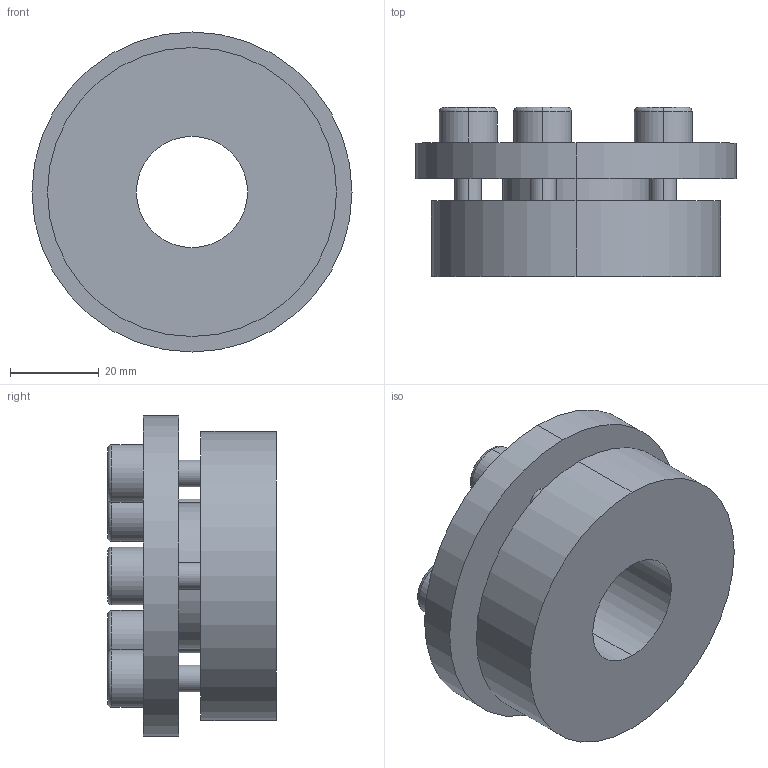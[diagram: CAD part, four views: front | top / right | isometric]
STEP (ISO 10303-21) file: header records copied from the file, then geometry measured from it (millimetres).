
FILE_DESCRIPTION (( 'STEP AP203' ), '1' );
FILE_NAME ('PL-H4 25-65.STEP', '2021-10-23T01:19:27', ( '' ), ( '' ), 'SwSTEP 2.0', 'SolidWorks 2018', '' );
FILE_SCHEMA (( 'CONFIG_CONTROL_DESIGN' ));
Length unit declared in the file: millimetre
Products named in the file (1): PL-H4 25-65
Bounding box: 72 x 38 x 72 mm (x, y, z)
Volume: 83883.8 mm3; surface area: 22390.8 mm2
Topology: 1 solids, 1 shells, 82 faces, 194 edges, 126 vertices
Faces by surface type: plane 44, cylinder 28, torus 10
Entity records: 2475 total; most frequent: DIRECTION 436, CARTESIAN_POINT 403, ORIENTED_EDGE 388, EDGE_CURVE 194, AXIS2_PLACEMENT_3D 159, VERTEX_POINT 126, VECTOR 118, LINE 118
